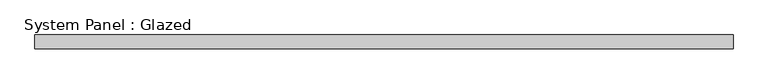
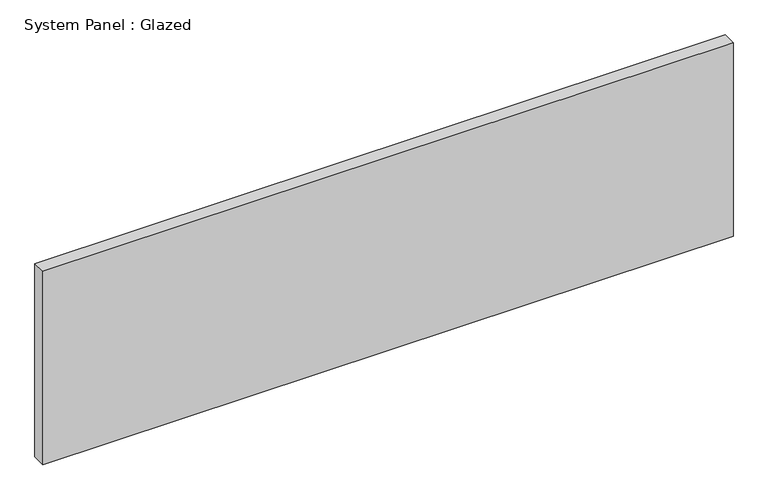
"""IFC4 building model written with IfcOpenShell, lengths in millimetres: plate geometry, System Panel : Glazed."""

from ifc_helpers import new_model, si_unit, origin, origin_with_axes, place, context, project, spatial, polyline, outline, extrude, source, transform, mapped, element, save


def system_panel_glazed_f3d6d61c(model_context):
    return source(origin(), model_context, "Body", "SweptSolid", [
        extrude(outline(polyline([(713.25, -14.0), (-713.25, -14.0), (-713.25, 14.0), (713.25, 14.0), (713.25, -14.0)])), origin_with_axes(), (0.0, 0.0, 1.0), 422.5),
    ])


if __name__ == "__main__":
    model = new_model("IFC4")
    model_context = context("Model", 3, world=origin())
    ifc_project = project(units=[si_unit("LENGTHUNIT", "METRE", prefix="MILLI")], contexts=[model_context])
    site = spatial("IfcSite", under=ifc_project)
    building = spatial("IfcBuilding", under=site)
    placement = place(None, origin())
    system_panel_glazed_shape = system_panel_glazed_f3d6d61c(model_context)
    element("IfcPlate", 1, ObjectType="System Panel : Glazed", at=placement, inside=building, context=model_context, shape_type="MappedRepresentation", body=[
        mapped(system_panel_glazed_shape, transform((0.0, 0.0, 0.0), x_axis=(1.0, 0.0, 0.0), y_axis=(0.0, 1.0, 0.0), z_axis=(0.0, 0.0, 1.0))),
    ])
    save(model, "model.ifc")
